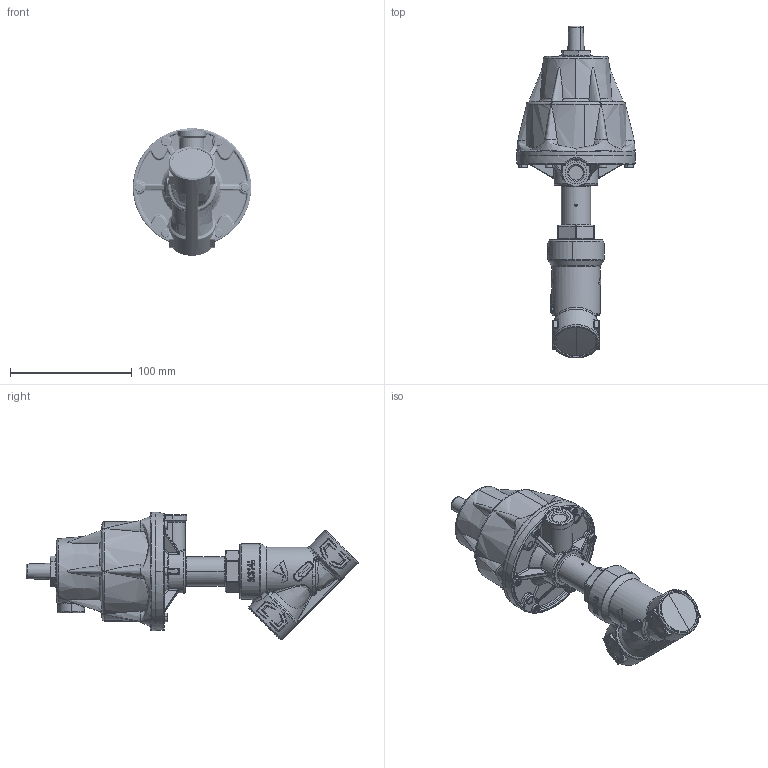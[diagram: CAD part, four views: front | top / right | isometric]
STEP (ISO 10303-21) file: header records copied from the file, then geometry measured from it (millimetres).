
FILE_DESCRIPTION( (''), '2;1');
FILE_NAME ('PC1276.13160.ASV-1000 25A_5879.stp','2025-09-24T09:34:01',(''),(''),'spGate 20.6.3 (****-****-****-****)','','');
FILE_SCHEMA (('AUTOMOTIVE_DESIGN'));
Length unit declared in the file: millimetre
Products named in the file (7): Assembly; ASV-1000 25A_M1; TORX screw T20M4-16; Body 25A改1(フロービロー); Actuator cover(ノーマルクローズ); Actuator base; 金型屋データPacking case 25A
Assembly tree (11 placements, depth 2):
  Assembly
    ASV-1000 25A_M1
    TORX screw T20M4-16  x6
    Body 25A改1(フロービロー)
    Actuator cover(ノーマルクローズ)
    Actuator base
    金型屋データPacking case 25A
Bounding box: 97 x 272.28 x 104.54 mm (x, y, z)
Volume: 660524 mm3; surface area: 94080.9 mm2
Topology: 11 solids, 11 shells, 1815 faces, 4565 edges, 2746 vertices
Faces by surface type: bspline 722, cylinder 712, plane 311, sphere 70
Entity records: 100971 total; most frequent: CARTESIAN_POINT 46661, ORIENTED_EDGE 6652, COLOUR_RGB 4742, PRESENTATION_STYLE_ASSIGNMENT 4742, STYLED_ITEM 4742, DIRECTION 4577, EDGE_CURVE 3326, DRAUGHTING_PRE_DEFINED_CURVE_FONT 3326
